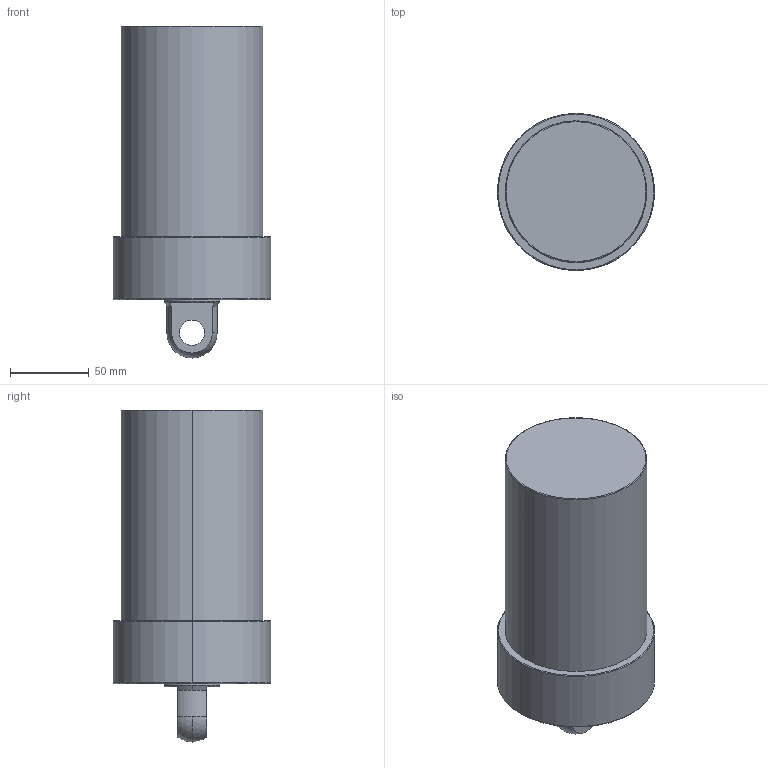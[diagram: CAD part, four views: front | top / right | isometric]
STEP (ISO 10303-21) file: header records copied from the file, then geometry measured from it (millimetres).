
FILE_DESCRIPTION (( 'STEP AP203' ), '1' );
FILE_NAME ('CLLU-090GP-090.STEP', '2020-01-15T01:44:32', ( '' ), ( '' ), 'SwSTEP 2.0', 'SolidWorks 2015', '' );
FILE_SCHEMA (( 'CONFIG_CONTROL_DESIGN' ));
Length unit declared in the file: millimetre
Products named in the file (1): CLLU-090GP-090
Bounding box: 100 x 100 x 211 mm (x, y, z)
Volume: 1175633.3 mm3; surface area: 72342.9 mm2
Topology: 1 solids, 1 shells, 58 faces, 131 edges, 75 vertices
Faces by surface type: cylinder 23, cone 18, plane 9, torus 6, sphere 2
Entity records: 1658 total; most frequent: DIRECTION 311, CARTESIAN_POINT 269, ORIENTED_EDGE 246, AXIS2_PLACEMENT_3D 133, EDGE_CURVE 123, VERTEX_POINT 75, CIRCLE 74, EDGE_LOOP 68
